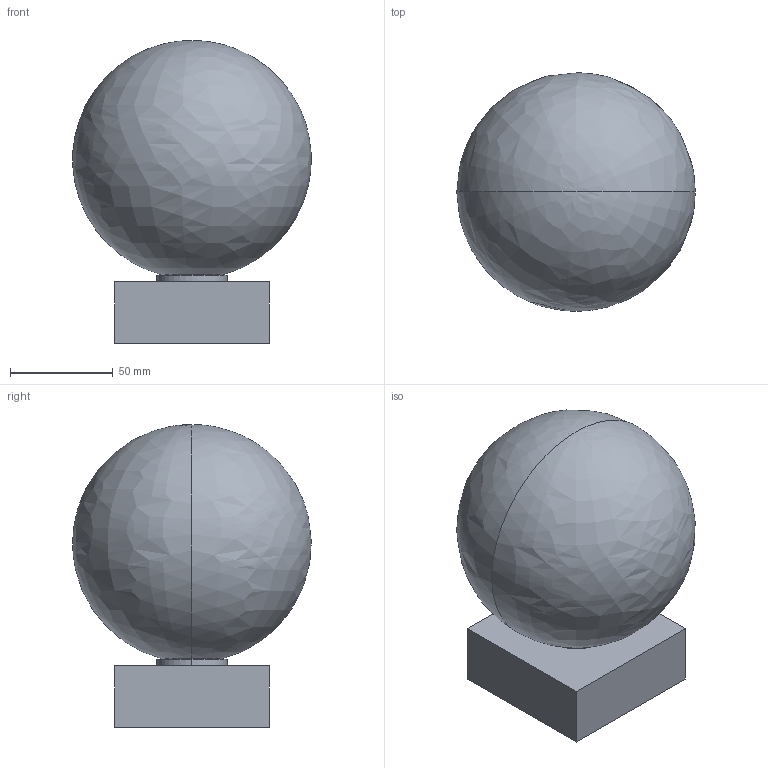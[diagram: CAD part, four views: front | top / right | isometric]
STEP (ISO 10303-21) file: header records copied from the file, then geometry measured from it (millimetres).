
FILE_DESCRIPTION(/* description */ (''),/* implementation_level */ '2;1');
FILE_NAME(/* name */ 'C:\Users\FrancoSartori\Documents\FARO\01_En Proceso\0000_2022\0_PERLA\03_Publicación\40088.stp',/* time_stamp */ '2022-02-03T17:11:26+01:00',/* author */ ('FrancoSartori'),/* organization */ (''),/* preprocessor_version */ 'ST-DEVELOPER v18.1',/* originating_system */ 'AutoCAD Mechanical',/* authorisation */ '');
FILE_SCHEMA (('AUTOMOTIVE_DESIGN { 1 0 10303 214 3 1 1 }'));
Length unit declared in the file: millimetre
Products named in the file (3): Product; FamilyGeomCombination_414792-Export; FamilyGeomCombination_416300-Export
Assembly tree (2 placements, depth 2):
  Product
    FamilyGeomCombination_414792-Export
    FamilyGeomCombination_416300-Export
Bounding box: 115.86 x 116 x 147.24 mm (x, y, z)
Volume: 124699.1 mm3; surface area: 161675.9 mm2
Topology: 6 solids, 6 shells, 105 faces, 238 edges, 136 vertices
Faces by surface type: plane 51, cylinder 34, torus 10, bspline 6, sphere 4
Entity records: 4262 total; most frequent: CARTESIAN_POINT 1916, DIRECTION 474, ORIENTED_EDGE 460, EDGE_CURVE 230, AXIS2_PLACEMENT_3D 178, VERTEX_POINT 136, LINE 118, VECTOR 118
